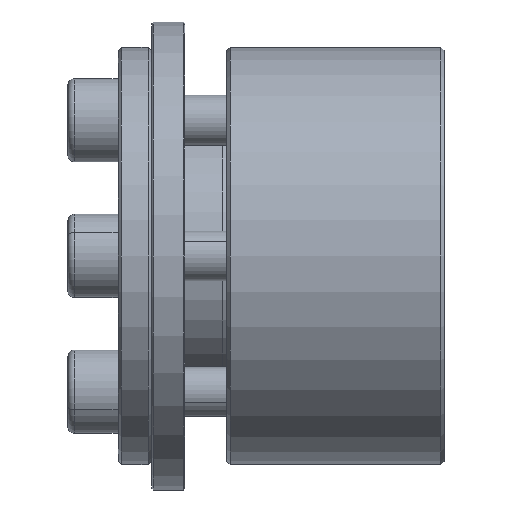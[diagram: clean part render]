
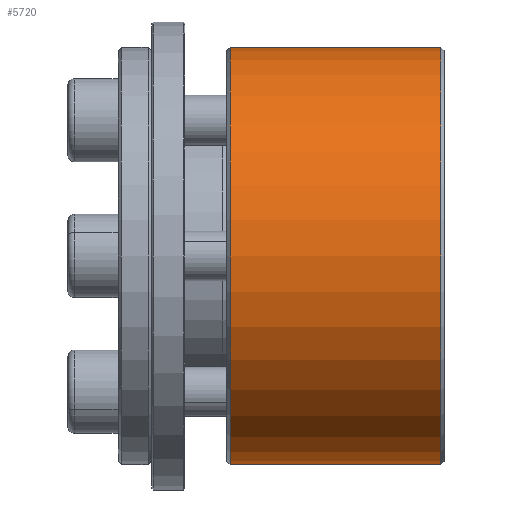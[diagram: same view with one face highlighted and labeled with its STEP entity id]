
A CAD part, front view. The second image highlights one B-rep face of the part: STEP entity #5720.
In plain terms, the highlighted cylindrical face has radius 24.96 mm (diameter 49.92 mm), a partial arc.
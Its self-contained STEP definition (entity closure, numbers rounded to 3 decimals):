
#52 = CARTESIAN_POINT ( 'NONE',  ( -67.166, 26.04, -24.96 ) ) ;
#219 = LINE ( 'NONE', #2536, #5423 ) ;
#350 = CIRCLE ( 'NONE', #2775, 24.96 ) ;
#615 = VERTEX_POINT ( 'NONE', #7476 ) ;
#915 = DIRECTION ( 'NONE',  ( -1., 0., 0. ) ) ;
#1905 = DIRECTION ( 'NONE',  ( -1., 0., 0. ) ) ;
#2189 = VERTEX_POINT ( 'NONE', #3929 ) ;
#2271 = VECTOR ( 'NONE', #915, 1000. ) ;
#2415 = ORIENTED_EDGE ( 'NONE', *, *, #6313, .T. ) ;
#2440 = CYLINDRICAL_SURFACE ( 'NONE', #2520, 24.96 ) ;
#2520 = AXIS2_PLACEMENT_3D ( 'NONE', #2558, #1905, #6523 ) ;
#2536 = CARTESIAN_POINT ( 'NONE',  ( -92.766, 26.04, -24.96 ) ) ;
#2558 = CARTESIAN_POINT ( 'NONE',  ( -92.766, 26.04, 0. ) ) ;
#2630 = EDGE_LOOP ( 'NONE', ( #6621, #2415, #7307, #5860 ) ) ;
#2641 = VERTEX_POINT ( 'NONE', #7246 ) ;
#2775 = AXIS2_PLACEMENT_3D ( 'NONE', #5003, #3818, #3304 ) ;
#3185 = DIRECTION ( 'NONE',  ( 0., 0., -1. ) ) ;
#3216 = CARTESIAN_POINT ( 'NONE',  ( -92.366, 26.04, 0. ) ) ;
#3304 = DIRECTION ( 'NONE',  ( 0., 0., 1. ) ) ;
#3818 = DIRECTION ( 'NONE',  ( -1., 0., 0. ) ) ;
#3929 = CARTESIAN_POINT ( 'NONE',  ( -92.366, 26.04, 24.96 ) ) ;
#3989 = AXIS2_PLACEMENT_3D ( 'NONE', #3216, #5457, #3185 ) ;
#4705 = EDGE_CURVE ( 'NONE', #615, #2189, #5472, .T. ) ;
#5003 = CARTESIAN_POINT ( 'NONE',  ( -67.166, 26.04, 0. ) ) ;
#5200 = FACE_OUTER_BOUND ( 'NONE', #2630, .T. ) ;
#5423 = VECTOR ( 'NONE', #7146, 1000. ) ;
#5457 = DIRECTION ( 'NONE',  ( 1., 0., 0. ) ) ;
#5472 = LINE ( 'NONE', #6102, #2271 ) ;
#5575 = EDGE_CURVE ( 'NONE', #6986, #2641, #219, .T. ) ;
#5720 = ADVANCED_FACE ( 'NONE', ( #5200 ), #2440, .T. ) ;
#5860 = ORIENTED_EDGE ( 'NONE', *, *, #6772, .T. ) ;
#6102 = CARTESIAN_POINT ( 'NONE',  ( -92.766, 26.04, 24.96 ) ) ;
#6313 = EDGE_CURVE ( 'NONE', #6986, #615, #350, .T. ) ;
#6523 = DIRECTION ( 'NONE',  ( 0., 0., 1. ) ) ;
#6621 = ORIENTED_EDGE ( 'NONE', *, *, #5575, .F. ) ;
#6772 = EDGE_CURVE ( 'NONE', #2189, #2641, #7002, .T. ) ;
#6986 = VERTEX_POINT ( 'NONE', #52 ) ;
#7002 = CIRCLE ( 'NONE', #3989, 24.96 ) ;
#7146 = DIRECTION ( 'NONE',  ( -1., 0., 0. ) ) ;
#7246 = CARTESIAN_POINT ( 'NONE',  ( -92.366, 26.04, -24.96 ) ) ;
#7307 = ORIENTED_EDGE ( 'NONE', *, *, #4705, .T. ) ;
#7476 = CARTESIAN_POINT ( 'NONE',  ( -67.166, 26.04, 24.96 ) ) ;
